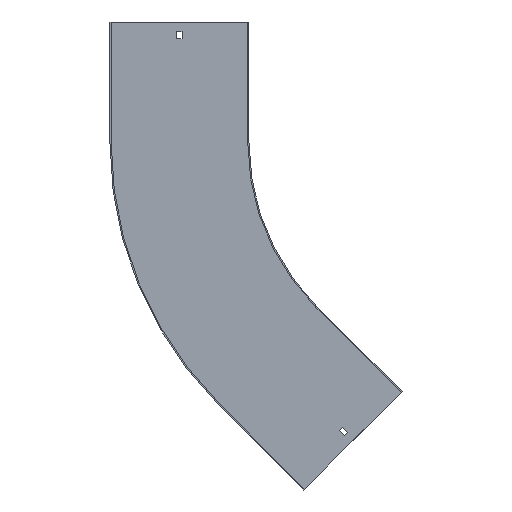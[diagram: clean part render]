
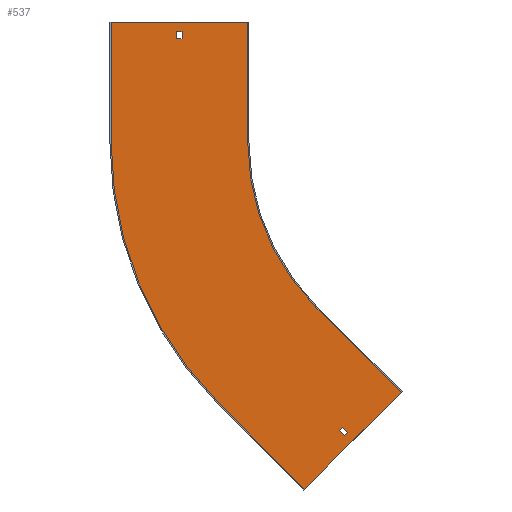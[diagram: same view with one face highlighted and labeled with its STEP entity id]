
A CAD part, front view. The second image highlights one B-rep face of the part: STEP entity #537.
In plain terms, the highlighted planar face has unit normal (0, -1, 0).
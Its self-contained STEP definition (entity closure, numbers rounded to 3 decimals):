
#2 = EDGE_CURVE ( 'NONE', #177, #861, #8, .T. ) ;
#8 = CIRCLE ( 'NONE', #112, 460. ) ;
#18 = EDGE_CURVE ( 'NONE', #475, #177, #482, .T. ) ;
#21 = LINE ( 'NONE', #161, #385 ) ;
#45 = EDGE_CURVE ( 'NONE', #726, #394, #67, .T. ) ;
#47 = DIRECTION ( 'NONE',  ( -0.707, 0., 0.707 ) ) ;
#52 = LINE ( 'NONE', #453, #672 ) ;
#55 = ORIENTED_EDGE ( 'NONE', *, *, #102, .T. ) ;
#57 = CARTESIAN_POINT ( 'NONE',  ( -460., -1.5, 0. ) ) ;
#67 = LINE ( 'NONE', #339, #167 ) ;
#68 = FACE_BOUND ( 'NONE', #319, .T. ) ;
#72 = VECTOR ( 'NONE', #47, 1000. ) ;
#76 = CARTESIAN_POINT ( 'NONE',  ( 0., -1.5, 129. ) ) ;
#88 = LINE ( 'NONE', #92, #825 ) ;
#90 = VERTEX_POINT ( 'NONE', #665 ) ;
#92 = CARTESIAN_POINT ( 'NONE',  ( -378.25, -1.5, 0. ) ) ;
#94 = VECTOR ( 'NONE', #502, 1000. ) ;
#102 = EDGE_CURVE ( 'NONE', #118, #106, #800, .T. ) ;
#106 = VERTEX_POINT ( 'NONE', #805 ) ;
#110 = LINE ( 'NONE', #779, #802 ) ;
#112 = AXIS2_PLACEMENT_3D ( 'NONE', #662, #543, #138 ) ;
#118 = VERTEX_POINT ( 'NONE', #202 ) ;
#137 = CARTESIAN_POINT ( 'NONE',  ( -165.286, -1.5, -360.448 ) ) ;
#138 = DIRECTION ( 'NONE',  ( 0., 0., -1. ) ) ;
#139 = ORIENTED_EDGE ( 'NONE', *, *, #308, .T. ) ;
#142 = DIRECTION ( 'NONE',  ( -1., 0., 0. ) ) ;
#153 = EDGE_LOOP ( 'NONE', ( #514, #433, #581, #280, #445, #356, #583, #653 ) ) ;
#161 = CARTESIAN_POINT ( 'NONE',  ( -97.934, -1.5, -310.066 ) ) ;
#167 = VECTOR ( 'NONE', #608, 1000. ) ;
#177 = VERTEX_POINT ( 'NONE', #291 ) ;
#182 = ORIENTED_EDGE ( 'NONE', *, *, #633, .T. ) ;
#185 = EDGE_CURVE ( 'NONE', #394, #741, #352, .T. ) ;
#195 = VERTEX_POINT ( 'NONE', #436 ) ;
#202 = CARTESIAN_POINT ( 'NONE',  ( -371.75, -1.5, 129. ) ) ;
#203 = VECTOR ( 'NONE', #142, 1000. ) ;
#209 = CARTESIAN_POINT ( 'NONE',  ( -219.203, -1.5, -431.335 ) ) ;
#211 = FACE_BOUND ( 'NONE', #413, .T. ) ;
#223 = DIRECTION ( 'NONE',  ( 0., -1., 0. ) ) ;
#226 = DIRECTION ( 'NONE',  ( 0.707, 0., 0.707 ) ) ;
#233 = AXIS2_PLACEMENT_3D ( 'NONE', #463, #348, #655 ) ;
#237 = DIRECTION ( 'NONE',  ( 0., 0., -1. ) ) ;
#255 = CARTESIAN_POINT ( 'NONE',  ( -290., -1.5, 0. ) ) ;
#279 = AXIS2_PLACEMENT_3D ( 'NONE', #479, #223, #237 ) ;
#280 = ORIENTED_EDGE ( 'NONE', *, *, #18, .F. ) ;
#291 = CARTESIAN_POINT ( 'NONE',  ( -325.269, -1.5, -325.269 ) ) ;
#294 = CARTESIAN_POINT ( 'NONE',  ( 97.581, -1.5, -97.581 ) ) ;
#296 = VERTEX_POINT ( 'NONE', #584 ) ;
#308 = EDGE_CURVE ( 'NONE', #90, #509, #309, .T. ) ;
#309 = LINE ( 'NONE', #710, #758 ) ;
#319 = EDGE_LOOP ( 'NONE', ( #139, #538, #55, #182 ) ) ;
#323 = CARTESIAN_POINT ( 'NONE',  ( -290., -1.5, 150. ) ) ;
#333 = CARTESIAN_POINT ( 'NONE',  ( -262.867, -1.5, -262.867 ) ) ;
#339 = CARTESIAN_POINT ( 'NONE',  ( -267.463, -1.5, -267.463 ) ) ;
#342 = PLANE ( 'NONE',  #279 ) ;
#347 = VECTOR ( 'NONE', #403, 1000. ) ;
#348 = DIRECTION ( 'NONE',  ( 0., -1., 0. ) ) ;
#351 = ORIENTED_EDGE ( 'NONE', *, *, #45, .F. ) ;
#352 = LINE ( 'NONE', #294, #442 ) ;
#353 = ORIENTED_EDGE ( 'NONE', *, *, #399, .F. ) ;
#356 = ORIENTED_EDGE ( 'NONE', *, *, #451, .F. ) ;
#373 = VERTEX_POINT ( 'NONE', #444 ) ;
#379 = CARTESIAN_POINT ( 'NONE',  ( 91.217, -1.5, -91.217 ) ) ;
#385 = VECTOR ( 'NONE', #489, 1000. ) ;
#387 = CARTESIAN_POINT ( 'NONE',  ( -176.246, -1.5, -358.68 ) ) ;
#390 = VERTEX_POINT ( 'NONE', #255 ) ;
#394 = VERTEX_POINT ( 'NONE', #516 ) ;
#397 = LINE ( 'NONE', #323, #458 ) ;
#399 = EDGE_CURVE ( 'NONE', #493, #726, #783, .T. ) ;
#403 = DIRECTION ( 'NONE',  ( 0.707, 0., -0.707 ) ) ;
#413 = EDGE_LOOP ( 'NONE', ( #756, #642, #351, #353 ) ) ;
#433 = ORIENTED_EDGE ( 'NONE', *, *, #499, .F. ) ;
#436 = CARTESIAN_POINT ( 'NONE',  ( -205.061, -1.5, -205.061 ) ) ;
#442 = VECTOR ( 'NONE', #226, 1000. ) ;
#444 = CARTESIAN_POINT ( 'NONE',  ( -460., -1.5, 150. ) ) ;
#445 = ORIENTED_EDGE ( 'NONE', *, *, #566, .F. ) ;
#451 = EDGE_CURVE ( 'NONE', #195, #455, #731, .T. ) ;
#453 = CARTESIAN_POINT ( 'NONE',  ( -371.75, -1.5, 0. ) ) ;
#455 = VERTEX_POINT ( 'NONE', #661 ) ;
#458 = VECTOR ( 'NONE', #465, 1000. ) ;
#463 = CARTESIAN_POINT ( 'NONE',  ( 0., -1.5, 0. ) ) ;
#465 = DIRECTION ( 'NONE',  ( 0., 0., -1. ) ) ;
#475 = VERTEX_POINT ( 'NONE', #811 ) ;
#479 = CARTESIAN_POINT ( 'NONE',  ( 0., -1.5, 0. ) ) ;
#482 = LINE ( 'NONE', #209, #837 ) ;
#485 = EDGE_CURVE ( 'NONE', #390, #195, #590, .T. ) ;
#489 = DIRECTION ( 'NONE',  ( -0.707, 0., -0.707 ) ) ;
#493 = VERTEX_POINT ( 'NONE', #610 ) ;
#499 = EDGE_CURVE ( 'NONE', #861, #373, #859, .T. ) ;
#502 = DIRECTION ( 'NONE',  ( -0.707, 0., -0.707 ) ) ;
#506 = LINE ( 'NONE', #333, #72 ) ;
#509 = VERTEX_POINT ( 'NONE', #798 ) ;
#514 = ORIENTED_EDGE ( 'NONE', *, *, #714, .F. ) ;
#516 = CARTESIAN_POINT ( 'NONE',  ( -169.882, -1.5, -365.044 ) ) ;
#532 = DIRECTION ( 'NONE',  ( -0.707, 0., 0.707 ) ) ;
#537 = ADVANCED_FACE ( 'NONE', ( #211, #742, #68 ), #342, .T. ) ;
#538 = ORIENTED_EDGE ( 'NONE', *, *, #699, .T. ) ;
#543 = DIRECTION ( 'NONE',  ( 0., 1., 0. ) ) ;
#564 = DIRECTION ( 'NONE',  ( 0., 0., 1. ) ) ;
#566 = EDGE_CURVE ( 'NONE', #455, #475, #21, .T. ) ;
#575 = DIRECTION ( 'NONE',  ( 1., 0., 0. ) ) ;
#581 = ORIENTED_EDGE ( 'NONE', *, *, #2, .F. ) ;
#583 = ORIENTED_EDGE ( 'NONE', *, *, #485, .F. ) ;
#584 = CARTESIAN_POINT ( 'NONE',  ( -290., -1.5, 150. ) ) ;
#585 = DIRECTION ( 'NONE',  ( 0., 0., -1. ) ) ;
#590 = CIRCLE ( 'NONE', #233, 290. ) ;
#608 = DIRECTION ( 'NONE',  ( 0.707, 0., -0.707 ) ) ;
#610 = CARTESIAN_POINT ( 'NONE',  ( -171.65, -1.5, -354.084 ) ) ;
#633 = EDGE_CURVE ( 'NONE', #106, #90, #88, .T. ) ;
#642 = ORIENTED_EDGE ( 'NONE', *, *, #185, .F. ) ;
#644 = CARTESIAN_POINT ( 'NONE',  ( -460., -1.5, 0. ) ) ;
#653 = ORIENTED_EDGE ( 'NONE', *, *, #674, .F. ) ;
#655 = DIRECTION ( 'NONE',  ( 0., 0., -1. ) ) ;
#661 = CARTESIAN_POINT ( 'NONE',  ( -98.995, -1.5, -311.127 ) ) ;
#662 = CARTESIAN_POINT ( 'NONE',  ( 0., -1.5, 0. ) ) ;
#665 = CARTESIAN_POINT ( 'NONE',  ( -378.25, -1.5, 138. ) ) ;
#672 = VECTOR ( 'NONE', #585, 1000. ) ;
#674 = EDGE_CURVE ( 'NONE', #296, #390, #397, .T. ) ;
#683 = EDGE_CURVE ( 'NONE', #741, #493, #506, .T. ) ;
#687 = VECTOR ( 'NONE', #794, 1000. ) ;
#699 = EDGE_CURVE ( 'NONE', #509, #118, #52, .T. ) ;
#710 = CARTESIAN_POINT ( 'NONE',  ( 0., -1.5, 138. ) ) ;
#714 = EDGE_CURVE ( 'NONE', #373, #296, #110, .T. ) ;
#726 = VERTEX_POINT ( 'NONE', #387 ) ;
#727 = CARTESIAN_POINT ( 'NONE',  ( -205.061, -1.5, -205.061 ) ) ;
#728 = DIRECTION ( 'NONE',  ( 1., 0., 0. ) ) ;
#731 = LINE ( 'NONE', #727, #347 ) ;
#741 = VERTEX_POINT ( 'NONE', #137 ) ;
#742 = FACE_OUTER_BOUND ( 'NONE', #153, .T. ) ;
#756 = ORIENTED_EDGE ( 'NONE', *, *, #683, .F. ) ;
#758 = VECTOR ( 'NONE', #575, 1000. ) ;
#779 = CARTESIAN_POINT ( 'NONE',  ( -461.5, -1.5, 150. ) ) ;
#783 = LINE ( 'NONE', #379, #94 ) ;
#794 = DIRECTION ( 'NONE',  ( 0., 0., 1. ) ) ;
#798 = CARTESIAN_POINT ( 'NONE',  ( -371.75, -1.5, 138. ) ) ;
#800 = LINE ( 'NONE', #76, #203 ) ;
#802 = VECTOR ( 'NONE', #728, 1000. ) ;
#805 = CARTESIAN_POINT ( 'NONE',  ( -378.25, -1.5, 129. ) ) ;
#811 = CARTESIAN_POINT ( 'NONE',  ( -219.203, -1.5, -431.335 ) ) ;
#825 = VECTOR ( 'NONE', #564, 1000. ) ;
#837 = VECTOR ( 'NONE', #532, 1000. ) ;
#859 = LINE ( 'NONE', #57, #687 ) ;
#861 = VERTEX_POINT ( 'NONE', #644 ) ;
